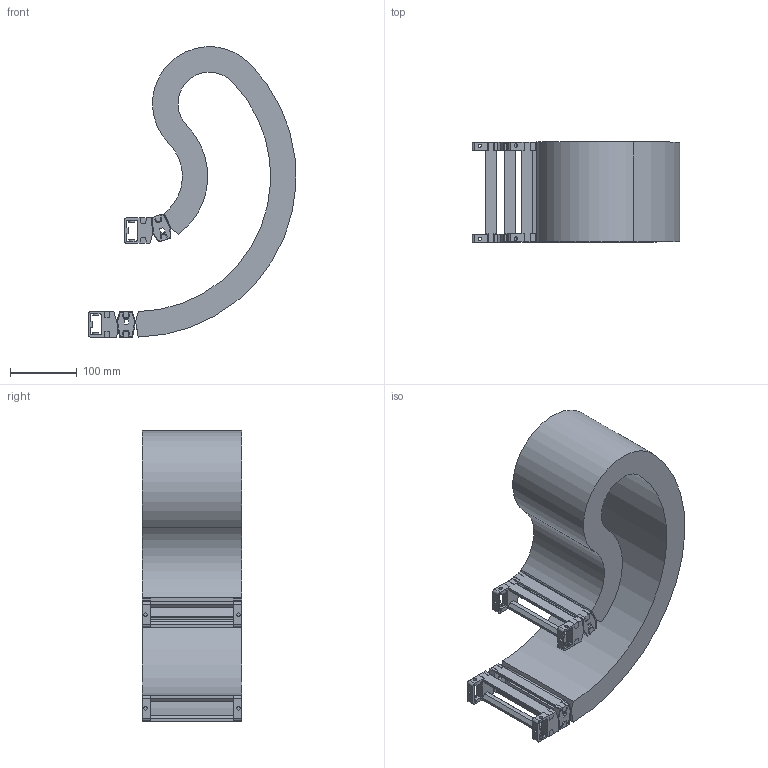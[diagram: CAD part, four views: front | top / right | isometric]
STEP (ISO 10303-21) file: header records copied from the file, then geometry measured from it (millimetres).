
FILE_DESCRIPTION( ( 'STEP AP214' ), '1' );
FILE_NAME( 'e:/temp/worker_49/temp/exporttempdir_5164_447_67t9B/format_1/RV028CRA1491557050170200-001251280.02446.stp', '2021-07-26T13:33:52', ( 'License CC BY-ND 4.0' ), ( 'CADENAS' ), ' ', 'PARTsolutions', ' ' );
FILE_SCHEMA( ( 'AUTOMOTIVE_DESIGN { 1 0 10303 214 1 1 1 1 }' ) );
Length unit declared in the file: millimetre
Products named in the file (5): RV028CRA1491557050170200-001251280.02446; _RV028CRA1491557050170200-00125793.324-Chain; _RV028CR-SU-28-125; _RV028CR_FB-149; _RV028CR_MB-149
Assembly tree (5 placements, depth 2):
  RV028CRA1491557050170200-001251280.02446
    _RV028CRA1491557050170200-00125793.324-Chain
    _RV028CR-SU-28-125  x2
    _RV028CR_FB-149
    _RV028CR_MB-149
Bounding box: 310.39 x 149 x 433.46 mm (x, y, z)
Volume: 2099460 mm3; surface area: 679564.4 mm2
Topology: 5 solids, 5 shells, 612 faces, 1844 edges, 1204 vertices
Faces by surface type: plane 472, cylinder 140
Full cylindrical faces by diameter (mm): 5 x12
Entity records: 18814 total; most frequent: CARTESIAN_POINT 2676, ORIENTED_EDGE 2672, DIRECTION 2480, EDGE_CURVE 1336, LINE 1112, VECTOR 1112, VERTEX_POINT 880, AXIS2_PLACEMENT_3D 684
